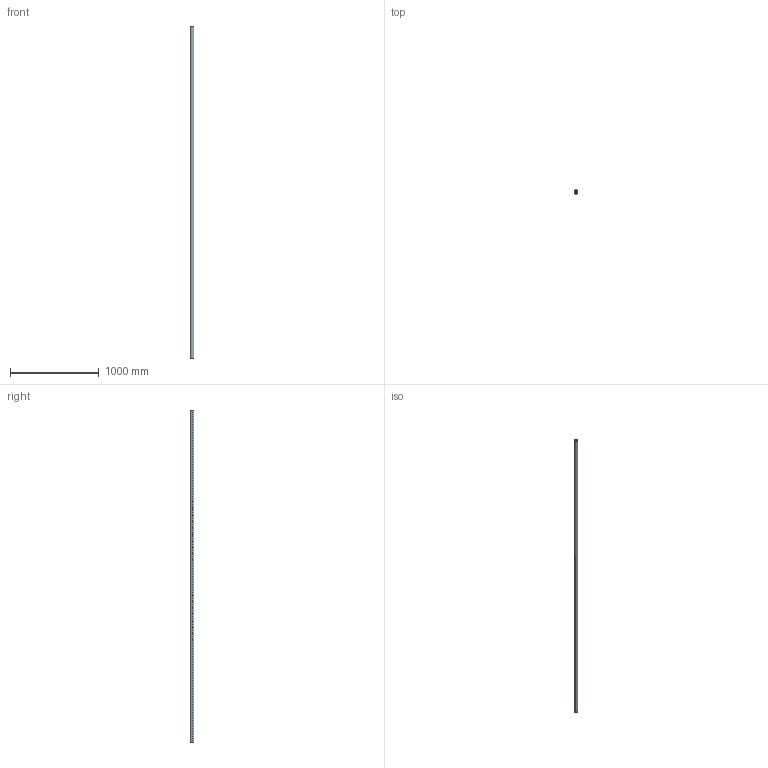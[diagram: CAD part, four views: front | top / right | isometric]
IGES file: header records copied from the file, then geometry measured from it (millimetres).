
Start section: SolidWorks IGES file using analytic representation for surfaces
Global section: file name: C:\Users\IanO\Desktop\L1771_v2\L1771.40_v2\L1771.40_v2_20230705_IGES\L1771.40-3750.igs; native system: SolidWorks 2019; preprocessor: SolidWorks 2019; author: IanO; date: 230705.162059; units: millimetre
Bounding box: 40 x 40 x 3750 mm (x, y, z)
Surface area: 802387.9 mm2 (no closed solid volume)
Topology: 0 solids, 0 shells, 6 faces, 272 edges, 272 vertices
Faces by surface type: revolution 4, bspline 2
